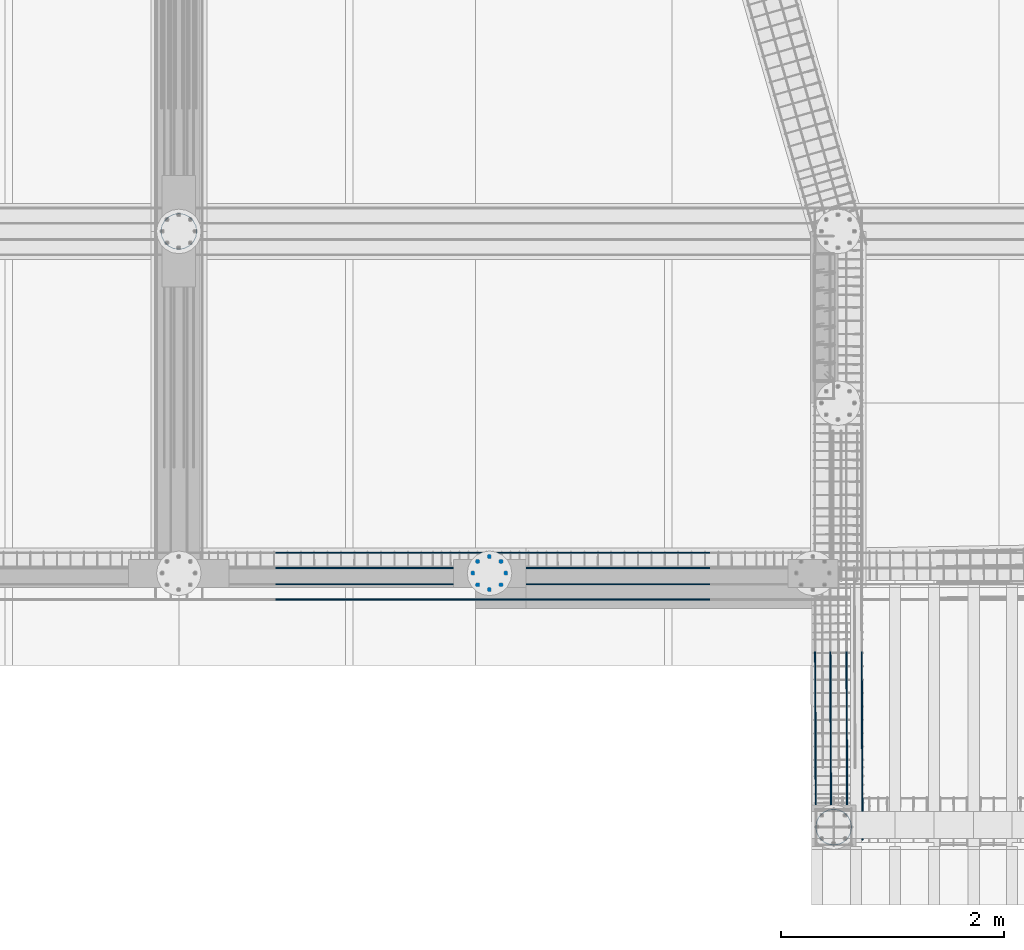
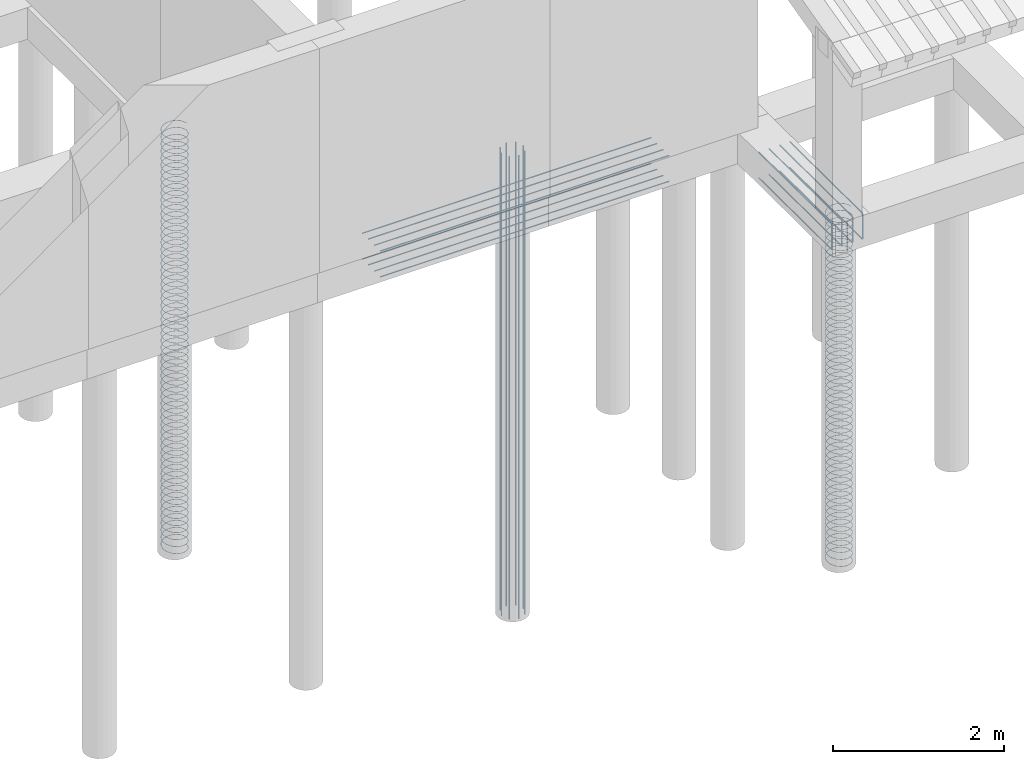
# One storey, part 5 of 13: 5 reinforcing bars.
"""IFC4 building model written with IfcOpenShell, lengths in metres."""

from ifc_helpers import new_model, entity, si_unit, origin_with_axes, place, context, project, spatial, source, transform, mapped, element, save


model = new_model("IFC4")

# Units and contexts
model_context = context("Model", 3, precision=1e-05, world=origin_with_axes())
ifc_project = project(units=[si_unit("LENGTHUNIT", "METRE"), si_unit("AREAUNIT", "SQUARE_METRE"), si_unit("VOLUMEUNIT", "CUBIC_METRE"), si_unit("MASSUNIT", "GRAM", prefix="KILO"), si_unit("TIMEUNIT", "SECOND"), si_unit("PLANEANGLEUNIT", "RADIAN"), si_unit("SOLIDANGLEUNIT", "STERADIAN"), si_unit("THERMODYNAMICTEMPERATUREUNIT", "DEGREE_CELSIUS")], contexts=[model_context])

# Site, building, storey
placement_1 = place(None, origin_with_axes())
site = spatial("IfcSite", under=ifc_project, at=placement_1, Name="Italia", CompositionType="ELEMENT")
building = spatial("IfcBuilding", under=site, at=placement_1, Name="Villa", CompositionType="ELEMENT")
storey = spatial("IfcBuildingStorey", under=building, at=placement_1, Name="Storey 0", CompositionType="ELEMENT", Elevation=0.0)

# Reinforcing bars
shared_shape_1 = source(origin_with_axes(), model_context, "Body", "AdvancedSweptSolid", [
    entity("IfcSweptDiskSolid", entity("IfcIndexedPolyCurve", entity("IfcCartesianPointList3D", [[15.12, 0.2, -4.97], [15.1122, 0.150557, -4.965], [15.0894, 0.105954, -4.96], [15.054, 0.0705573, -4.955], [15.0094, 0.047831, -4.95], [14.96, 0.04, -4.945], [14.9106, 0.047831, -4.94], [14.866, 0.0705573, -4.935], [14.8306, 0.105954, -4.93], [14.8078, 0.150557, -4.925], [14.8, 0.2, -4.92], [14.8078, 0.249443, -4.915], [14.8306, 0.294046, -4.91], [14.866, 0.329443, -4.905], [14.9106, 0.352169, -4.9], [14.96, 0.36, -4.895], [15.0094, 0.352169, -4.89], [15.054, 0.329443, -4.885], [15.0894, 0.294046, -4.88], [15.1122, 0.249443, -4.875], [15.12, 0.2, -4.87]]), [entity("IfcLineIndex", [1, 2]), entity("IfcLineIndex", [2, 3]), entity("IfcLineIndex", [3, 4]), entity("IfcLineIndex", [4, 5]), entity("IfcLineIndex", [5, 6]), entity("IfcLineIndex", [6, 7]), entity("IfcLineIndex", [7, 8]), entity("IfcLineIndex", [8, 9]), entity("IfcLineIndex", [9, 10]), entity("IfcLineIndex", [10, 11]), entity("IfcLineIndex", [11, 12]), entity("IfcLineIndex", [12, 13]), entity("IfcLineIndex", [13, 14]), entity("IfcLineIndex", [14, 15]), entity("IfcLineIndex", [15, 16]), entity("IfcLineIndex", [16, 17]), entity("IfcLineIndex", [17, 18]), entity("IfcLineIndex", [18, 19]), entity("IfcLineIndex", [19, 20]), entity("IfcLineIndex", [20, 21])], False), 0.004),
])
placement_2 = place(placement_1, origin_with_axes())
reinforcing_bar_1_placement = place(placement_2, origin_with_axes())
element("IfcReinforcingBar", 1, at=reinforcing_bar_1_placement, inside=storey, BarLength=1.00616, CrossSectionArea=5.0265e-05, NominalDiameter=0.008, context=model_context, shape_type="MappedRepresentation", body=[
    mapped(shared_shape_1, transform((0.0, 0.0, 2.6), x_axis=(1.0, 0.0, 0.0), y_axis=(0.0, 1.0, 0.0), z_axis=(0.0, 0.0, 1.0), scale=1.0)),
    mapped(shared_shape_1, transform((0.0, 0.0, 2.5), x_axis=(1.0, 0.0, 0.0), y_axis=(0.0, 1.0, 0.0), z_axis=(0.0, 0.0, 1.0), scale=1.0)),
    mapped(shared_shape_1, transform((0.0, 0.0, 2.7), x_axis=(1.0, 0.0, 0.0), y_axis=(0.0, 1.0, 0.0), z_axis=(0.0, 0.0, 1.0), scale=1.0)),
    mapped(shared_shape_1, transform((0.0, 0.0, 2.9), x_axis=(1.0, 0.0, 0.0), y_axis=(0.0, 1.0, 0.0), z_axis=(0.0, 0.0, 1.0), scale=1.0)),
    mapped(shared_shape_1, transform((0.0, 0.0, 2.8), x_axis=(1.0, 0.0, 0.0), y_axis=(0.0, 1.0, 0.0), z_axis=(0.0, 0.0, 1.0), scale=1.0)),
    mapped(shared_shape_1, transform((2.28882e-05, 0.0, 3.20006), x_axis=(1.0, 0.0, 0.0), y_axis=(0.0, 1.0, 0.0), z_axis=(0.0, 0.0, 1.0), scale=1.0)),
    mapped(shared_shape_1, transform((2.28882e-05, 0.0, 3.10006), x_axis=(1.0, 0.0, 0.0), y_axis=(0.0, 1.0, 0.0), z_axis=(0.0, 0.0, 1.0), scale=1.0)),
    mapped(shared_shape_1, transform((2.28882e-05, 0.0, 3.00006), x_axis=(1.0, 0.0, 0.0), y_axis=(0.0, 1.0, 0.0), z_axis=(0.0, 0.0, 1.0), scale=1.0)),
    mapped(shared_shape_1, transform((2.28882e-05, 0.0, 3.50006), x_axis=(1.0, 0.0, 0.0), y_axis=(0.0, 1.0, 0.0), z_axis=(0.0, 0.0, 1.0), scale=1.0)),
    mapped(shared_shape_1, transform((2.28882e-05, 0.0, 3.40006), x_axis=(1.0, 0.0, 0.0), y_axis=(0.0, 1.0, 0.0), z_axis=(0.0, 0.0, 1.0), scale=1.0)),
    mapped(shared_shape_1, transform((2.28882e-05, 0.0, 3.30006), x_axis=(1.0, 0.0, 0.0), y_axis=(0.0, 1.0, 0.0), z_axis=(0.0, 0.0, 1.0), scale=1.0)),
    mapped(shared_shape_1, transform((2.28882e-05, 0.0, 3.80006), x_axis=(1.0, 0.0, 0.0), y_axis=(0.0, 1.0, 0.0), z_axis=(0.0, 0.0, 1.0), scale=1.0)),
    mapped(shared_shape_1, transform((2.28882e-05, 0.0, 3.70006), x_axis=(1.0, 0.0, 0.0), y_axis=(0.0, 1.0, 0.0), z_axis=(0.0, 0.0, 1.0), scale=1.0)),
    mapped(shared_shape_1, transform((2.28882e-05, 0.0, 3.60006), x_axis=(1.0, 0.0, 0.0), y_axis=(0.0, 1.0, 0.0), z_axis=(0.0, 0.0, 1.0), scale=1.0)),
    mapped(shared_shape_1, transform((2.28882e-05, 0.0, 4.10006), x_axis=(1.0, 0.0, 0.0), y_axis=(0.0, 1.0, 0.0), z_axis=(0.0, 0.0, 1.0), scale=1.0)),
    mapped(shared_shape_1, transform((2.28882e-05, 0.0, 4.00006), x_axis=(1.0, 0.0, 0.0), y_axis=(0.0, 1.0, 0.0), z_axis=(0.0, 0.0, 1.0), scale=1.0)),
    mapped(shared_shape_1, transform((2.28882e-05, 0.0, 3.90006), x_axis=(1.0, 0.0, 0.0), y_axis=(0.0, 1.0, 0.0), z_axis=(0.0, 0.0, 1.0), scale=1.0)),
    mapped(shared_shape_1, transform((2.28882e-05, 0.0, 4.40006), x_axis=(1.0, 0.0, 0.0), y_axis=(0.0, 1.0, 0.0), z_axis=(0.0, 0.0, 1.0), scale=1.0)),
    mapped(shared_shape_1, transform((2.28882e-05, 0.0, 4.30006), x_axis=(1.0, 0.0, 0.0), y_axis=(0.0, 1.0, 0.0), z_axis=(0.0, 0.0, 1.0), scale=1.0)),
    mapped(shared_shape_1, transform((2.28882e-05, 0.0, 4.20006), x_axis=(1.0, 0.0, 0.0), y_axis=(0.0, 1.0, 0.0), z_axis=(0.0, 0.0, 1.0), scale=1.0)),
    mapped(shared_shape_1, transform((2.38419e-05, 0.0, 4.50007), x_axis=(1.0, 0.0, 0.0), y_axis=(0.0, 1.0, 0.0), z_axis=(0.0, 0.0, 1.0), scale=1.0)),
    mapped(shared_shape_1, transform((2.38419e-05, 0.0, 4.70007), x_axis=(1.0, 0.0, 0.0), y_axis=(0.0, 1.0, 0.0), z_axis=(0.0, 0.0, 1.0), scale=1.0)),
    mapped(shared_shape_1, transform((2.38419e-05, 0.0, 4.60007), x_axis=(1.0, 0.0, 0.0), y_axis=(0.0, 1.0, 0.0), z_axis=(0.0, 0.0, 1.0), scale=1.0)),
    mapped(shared_shape_1, transform((2.38419e-05, 0.0, 4.80006), x_axis=(1.0, 0.0, 0.0), y_axis=(0.0, 1.0, 0.0), z_axis=(0.0, 0.0, 1.0), scale=1.0)),
    mapped(shared_shape_1, transform((0.0, 0.0, 0.0), x_axis=(1.0, 0.0, 0.0), y_axis=(0.0, 1.0, 0.0), z_axis=(0.0, 0.0, 1.0), scale=1.0)),
    mapped(shared_shape_1, transform((2.28882e-05, 0.0, 4.90006), x_axis=(1.0, 0.0, 0.0), y_axis=(0.0, 1.0, 0.0), z_axis=(0.0, 0.0, 1.0), scale=1.0)),
    mapped(shared_shape_1, transform((0.0, 0.0, 0.699998), x_axis=(1.0, 0.0, 0.0), y_axis=(0.0, 1.0, 0.0), z_axis=(0.0, 0.0, 1.0), scale=1.0)),
    mapped(shared_shape_1, transform((0.0, 0.0, 0.899998), x_axis=(1.0, 0.0, 0.0), y_axis=(0.0, 1.0, 0.0), z_axis=(0.0, 0.0, 1.0), scale=1.0)),
    mapped(shared_shape_1, transform((0.0, 0.0, 0.799998), x_axis=(1.0, 0.0, 0.0), y_axis=(0.0, 1.0, 0.0), z_axis=(0.0, 0.0, 1.0), scale=1.0)),
    mapped(shared_shape_1, transform((0.0, 0.0, 0.999998), x_axis=(1.0, 0.0, 0.0), y_axis=(0.0, 1.0, 0.0), z_axis=(0.0, 0.0, 1.0), scale=1.0)),
    mapped(shared_shape_1, transform((0.0, 0.0, 0.599998), x_axis=(1.0, 0.0, 0.0), y_axis=(0.0, 1.0, 0.0), z_axis=(0.0, 0.0, 1.0), scale=1.0)),
    mapped(shared_shape_1, transform((0.0, 0.0, 0.499999), x_axis=(1.0, 0.0, 0.0), y_axis=(0.0, 1.0, 0.0), z_axis=(0.0, 0.0, 1.0), scale=1.0)),
    mapped(shared_shape_1, transform((0.0, 0.0, 0.099999), x_axis=(1.0, 0.0, 0.0), y_axis=(0.0, 1.0, 0.0), z_axis=(0.0, 0.0, 1.0), scale=1.0)),
    mapped(shared_shape_1, transform((0.0, 0.0, 0.299999), x_axis=(1.0, 0.0, 0.0), y_axis=(0.0, 1.0, 0.0), z_axis=(0.0, 0.0, 1.0), scale=1.0)),
    mapped(shared_shape_1, transform((0.0, 0.0, 0.199999), x_axis=(1.0, 0.0, 0.0), y_axis=(0.0, 1.0, 0.0), z_axis=(0.0, 0.0, 1.0), scale=1.0)),
    mapped(shared_shape_1, transform((0.0, 0.0, 0.399999), x_axis=(1.0, 0.0, 0.0), y_axis=(0.0, 1.0, 0.0), z_axis=(0.0, 0.0, 1.0), scale=1.0)),
    mapped(shared_shape_1, transform((0.0, 0.0, 1.2), x_axis=(1.0, 0.0, 0.0), y_axis=(0.0, 1.0, 0.0), z_axis=(0.0, 0.0, 1.0), scale=1.0)),
    mapped(shared_shape_1, transform((0.0, 0.0, 1.1), x_axis=(1.0, 0.0, 0.0), y_axis=(0.0, 1.0, 0.0), z_axis=(0.0, 0.0, 1.0), scale=1.0)),
    mapped(shared_shape_1, transform((0.0, 0.0, 1.9), x_axis=(1.0, 0.0, 0.0), y_axis=(0.0, 1.0, 0.0), z_axis=(0.0, 0.0, 1.0), scale=1.0)),
    mapped(shared_shape_1, transform((0.0, 0.0, 2.1), x_axis=(1.0, 0.0, 0.0), y_axis=(0.0, 1.0, 0.0), z_axis=(0.0, 0.0, 1.0), scale=1.0)),
    mapped(shared_shape_1, transform((0.0, 0.0, 2.0), x_axis=(1.0, 0.0, 0.0), y_axis=(0.0, 1.0, 0.0), z_axis=(0.0, 0.0, 1.0), scale=1.0)),
    mapped(shared_shape_1, transform((0.0, 0.0, 2.2), x_axis=(1.0, 0.0, 0.0), y_axis=(0.0, 1.0, 0.0), z_axis=(0.0, 0.0, 1.0), scale=1.0)),
    mapped(shared_shape_1, transform((0.0, 0.0, 1.8), x_axis=(1.0, 0.0, 0.0), y_axis=(0.0, 1.0, 0.0), z_axis=(0.0, 0.0, 1.0), scale=1.0)),
    mapped(shared_shape_1, transform((0.0, 0.0, 1.7), x_axis=(1.0, 0.0, 0.0), y_axis=(0.0, 1.0, 0.0), z_axis=(0.0, 0.0, 1.0), scale=1.0)),
    mapped(shared_shape_1, transform((0.0, 0.0, 1.3), x_axis=(1.0, 0.0, 0.0), y_axis=(0.0, 1.0, 0.0), z_axis=(0.0, 0.0, 1.0), scale=1.0)),
    mapped(shared_shape_1, transform((0.0, 0.0, 1.5), x_axis=(1.0, 0.0, 0.0), y_axis=(0.0, 1.0, 0.0), z_axis=(0.0, 0.0, 1.0), scale=1.0)),
    mapped(shared_shape_1, transform((0.0, 0.0, 1.4), x_axis=(1.0, 0.0, 0.0), y_axis=(0.0, 1.0, 0.0), z_axis=(0.0, 0.0, 1.0), scale=1.0)),
    mapped(shared_shape_1, transform((0.0, 0.0, 1.6), x_axis=(1.0, 0.0, 0.0), y_axis=(0.0, 1.0, 0.0), z_axis=(0.0, 0.0, 1.0), scale=1.0)),
    mapped(shared_shape_1, transform((0.0, 0.0, 2.4), x_axis=(1.0, 0.0, 0.0), y_axis=(0.0, 1.0, 0.0), z_axis=(0.0, 0.0, 1.0), scale=1.0)),
    mapped(shared_shape_1, transform((0.0, 0.0, 2.3), x_axis=(1.0, 0.0, 0.0), y_axis=(0.0, 1.0, 0.0), z_axis=(0.0, 0.0, 1.0), scale=1.0)),
])
shared_shape_2 = source(origin_with_axes(), model_context, "Body", "AdvancedSweptSolid", [
    entity("IfcSweptDiskSolid", entity("IfcIndexedPolyCurve", entity("IfcCartesianPointList3D", [[11.9797, 2.37035, -6.0], [11.9797, 2.37035, 0.6]]), [entity("IfcLineIndex", [1, 2])], False), 0.008),
])
reinforcing_bar_2_placement = place(placement_2, origin_with_axes())
element("IfcReinforcingBar", 2, at=reinforcing_bar_2_placement, inside=storey, BarLength=6.6, CrossSectionArea=0.00020106, NominalDiameter=0.016, context=model_context, shape_type="MappedRepresentation", body=[
    mapped(shared_shape_2, transform((-0.252651, 0.104652, 0.0), x_axis=(1.0, 0.0, 0.0), y_axis=(0.0, 1.0, 0.0), z_axis=(0.0, 0.0, 1.0), scale=1.0)),
    mapped(shared_shape_2, transform((-0.209303, 0.209304, 0.0), x_axis=(1.0, 0.0, 0.0), y_axis=(0.0, 1.0, 0.0), z_axis=(0.0, 0.0, 1.0), scale=1.0)),
    mapped(shared_shape_2, transform((-0.104651, -0.0433481, 0.0), x_axis=(1.0, 0.0, 0.0), y_axis=(0.0, 1.0, 0.0), z_axis=(0.0, 0.0, 1.0), scale=1.0)),
    mapped(shared_shape_2, transform((-0.209303, 0.0, 0.0), x_axis=(1.0, 0.0, 0.0), y_axis=(0.0, 1.0, 0.0), z_axis=(0.0, 0.0, 1.0), scale=1.0)),
    mapped(shared_shape_2, transform((0.0433483, 0.104652, 0.0), x_axis=(1.0, 0.0, 0.0), y_axis=(0.0, 1.0, 0.0), z_axis=(0.0, 0.0, 1.0), scale=1.0)),
    mapped(shared_shape_2, transform((0.0, 0.0, 0.0), x_axis=(1.0, 0.0, 0.0), y_axis=(0.0, 1.0, 0.0), z_axis=(0.0, 0.0, 1.0), scale=1.0)),
    mapped(shared_shape_2, transform((-0.104651, 0.252652, 0.0), x_axis=(1.0, 0.0, 0.0), y_axis=(0.0, 1.0, 0.0), z_axis=(0.0, 0.0, 1.0), scale=1.0)),
    mapped(shared_shape_2, transform((0.0, 0.209304, 0.0), x_axis=(1.0, 0.0, 0.0), y_axis=(0.0, 1.0, 0.0), z_axis=(0.0, 0.0, 1.0), scale=1.0)),
])
shared_shape_3 = source(origin_with_axes(), model_context, "Body", "AdvancedSweptSolid", [
    entity("IfcSweptDiskSolid", entity("IfcIndexedPolyCurve", entity("IfcCartesianPointList3D", [[9.25, 5.54, -5.97], [9.24217, 5.49056, -5.965], [9.21944, 5.44595, -5.96], [9.18405, 5.41056, -5.955], [9.13944, 5.38783, -5.95], [9.09, 5.38, -5.945], [9.04056, 5.38783, -5.94], [8.99595, 5.41056, -5.935], [8.96056, 5.44595, -5.93], [8.93783, 5.49056, -5.925], [8.93, 5.54, -5.92], [8.93783, 5.58944, -5.915], [8.96056, 5.63405, -5.91], [8.99595, 5.66944, -5.905], [9.04056, 5.69217, -5.9], [9.09, 5.7, -5.895], [9.13944, 5.69217, -5.89], [9.18405, 5.66944, -5.885], [9.21944, 5.63405, -5.88], [9.24217, 5.58944, -5.875], [9.25, 5.54, -5.87]]), [entity("IfcLineIndex", [1, 2]), entity("IfcLineIndex", [2, 3]), entity("IfcLineIndex", [3, 4]), entity("IfcLineIndex", [4, 5]), entity("IfcLineIndex", [5, 6]), entity("IfcLineIndex", [6, 7]), entity("IfcLineIndex", [7, 8]), entity("IfcLineIndex", [8, 9]), entity("IfcLineIndex", [9, 10]), entity("IfcLineIndex", [10, 11]), entity("IfcLineIndex", [11, 12]), entity("IfcLineIndex", [12, 13]), entity("IfcLineIndex", [13, 14]), entity("IfcLineIndex", [14, 15]), entity("IfcLineIndex", [15, 16]), entity("IfcLineIndex", [16, 17]), entity("IfcLineIndex", [17, 18]), entity("IfcLineIndex", [18, 19]), entity("IfcLineIndex", [19, 20]), entity("IfcLineIndex", [20, 21])], False), 0.004),
])
reinforcing_bar_3_placement = place(placement_2, origin_with_axes())
element("IfcReinforcingBar", 3, at=reinforcing_bar_3_placement, inside=storey, BarLength=1.00616, CrossSectionArea=5.0265e-05, NominalDiameter=0.008, context=model_context, shape_type="MappedRepresentation", body=[
    mapped(shared_shape_3, transform((2.28882e-05, -1.33514e-05, 4.30002), x_axis=(1.0, 0.0, 0.0), y_axis=(0.0, 1.0, 0.0), z_axis=(0.0, 0.0, 1.0), scale=1.0)),
    mapped(shared_shape_3, transform((2.28882e-05, -1.33514e-05, 4.20002), x_axis=(1.0, 0.0, 0.0), y_axis=(0.0, 1.0, 0.0), z_axis=(0.0, 0.0, 1.0), scale=1.0)),
    mapped(shared_shape_3, transform((2.28882e-05, -1.33514e-05, 4.10002), x_axis=(1.0, 0.0, 0.0), y_axis=(0.0, 1.0, 0.0), z_axis=(0.0, 0.0, 1.0), scale=1.0)),
    mapped(shared_shape_3, transform((0.0, 0.0, 3.9), x_axis=(1.0, 0.0, 0.0), y_axis=(0.0, 1.0, 0.0), z_axis=(0.0, 0.0, 1.0), scale=1.0)),
    mapped(shared_shape_3, transform((0.0, 0.0, 3.8), x_axis=(1.0, 0.0, 0.0), y_axis=(0.0, 1.0, 0.0), z_axis=(0.0, 0.0, 1.0), scale=1.0)),
    mapped(shared_shape_3, transform((2.28882e-05, -1.33514e-05, 4.40002), x_axis=(1.0, 0.0, 0.0), y_axis=(0.0, 1.0, 0.0), z_axis=(0.0, 0.0, 1.0), scale=1.0)),
    mapped(shared_shape_3, transform((0.0, 0.0, 3.5), x_axis=(1.0, 0.0, 0.0), y_axis=(0.0, 1.0, 0.0), z_axis=(0.0, 0.0, 1.0), scale=1.0)),
    mapped(shared_shape_3, transform((0.0, 0.0, 3.4), x_axis=(1.0, 0.0, 0.0), y_axis=(0.0, 1.0, 0.0), z_axis=(0.0, 0.0, 1.0), scale=1.0)),
    mapped(shared_shape_3, transform((2.28882e-05, -1.33514e-05, 4.00002), x_axis=(1.0, 0.0, 0.0), y_axis=(0.0, 1.0, 0.0), z_axis=(0.0, 0.0, 1.0), scale=1.0)),
    mapped(shared_shape_3, transform((0.0, 0.0, 3.1), x_axis=(1.0, 0.0, 0.0), y_axis=(0.0, 1.0, 0.0), z_axis=(0.0, 0.0, 1.0), scale=1.0)),
    mapped(shared_shape_3, transform((0.0, 0.0, 3.7), x_axis=(1.0, 0.0, 0.0), y_axis=(0.0, 1.0, 0.0), z_axis=(0.0, 0.0, 1.0), scale=1.0)),
    mapped(shared_shape_3, transform((0.0, 0.0, 3.6), x_axis=(1.0, 0.0, 0.0), y_axis=(0.0, 1.0, 0.0), z_axis=(0.0, 0.0, 1.0), scale=1.0)),
    mapped(shared_shape_3, transform((2.47955e-05, -1.33514e-05, 5.70002), x_axis=(1.0, 0.0, 0.0), y_axis=(0.0, 1.0, 0.0), z_axis=(0.0, 0.0, 1.0), scale=1.0)),
    mapped(shared_shape_3, transform((0.0, 0.0, 3.3), x_axis=(1.0, 0.0, 0.0), y_axis=(0.0, 1.0, 0.0), z_axis=(0.0, 0.0, 1.0), scale=1.0)),
    mapped(shared_shape_3, transform((0.0, 0.0, 3.2), x_axis=(1.0, 0.0, 0.0), y_axis=(0.0, 1.0, 0.0), z_axis=(0.0, 0.0, 1.0), scale=1.0)),
    mapped(shared_shape_3, transform((0.0, 0.0, 3.0), x_axis=(1.0, 0.0, 0.0), y_axis=(0.0, 1.0, 0.0), z_axis=(0.0, 0.0, 1.0), scale=1.0)),
    mapped(shared_shape_3, transform((2.28882e-05, -1.28746e-05, 5.90002), x_axis=(1.0, 0.0, 0.0), y_axis=(0.0, 1.0, 0.0), z_axis=(0.0, 0.0, 1.0), scale=1.0)),
    mapped(shared_shape_3, transform((2.38419e-05, -1.33514e-05, 5.80002), x_axis=(1.0, 0.0, 0.0), y_axis=(0.0, 1.0, 0.0), z_axis=(0.0, 0.0, 1.0), scale=1.0)),
    mapped(shared_shape_3, transform((2.47955e-05, -1.33514e-05, 5.60002), x_axis=(1.0, 0.0, 0.0), y_axis=(0.0, 1.0, 0.0), z_axis=(0.0, 0.0, 1.0), scale=1.0)),
    mapped(shared_shape_3, transform((2.47955e-05, -1.33514e-05, 5.50002), x_axis=(1.0, 0.0, 0.0), y_axis=(0.0, 1.0, 0.0), z_axis=(0.0, 0.0, 1.0), scale=1.0)),
    mapped(shared_shape_3, transform((2.28882e-05, -1.33514e-05, 5.40002), x_axis=(1.0, 0.0, 0.0), y_axis=(0.0, 1.0, 0.0), z_axis=(0.0, 0.0, 1.0), scale=1.0)),
    mapped(shared_shape_3, transform((2.28882e-05, -1.33514e-05, 5.20002), x_axis=(1.0, 0.0, 0.0), y_axis=(0.0, 1.0, 0.0), z_axis=(0.0, 0.0, 1.0), scale=1.0)),
    mapped(shared_shape_3, transform((2.28882e-05, -1.33514e-05, 5.10002), x_axis=(1.0, 0.0, 0.0), y_axis=(0.0, 1.0, 0.0), z_axis=(0.0, 0.0, 1.0), scale=1.0)),
    mapped(shared_shape_3, transform((2.28882e-05, -1.33514e-05, 5.00002), x_axis=(1.0, 0.0, 0.0), y_axis=(0.0, 1.0, 0.0), z_axis=(0.0, 0.0, 1.0), scale=1.0)),
    mapped(shared_shape_3, transform((2.28882e-05, -1.33514e-05, 4.80002), x_axis=(1.0, 0.0, 0.0), y_axis=(0.0, 1.0, 0.0), z_axis=(0.0, 0.0, 1.0), scale=1.0)),
    mapped(shared_shape_3, transform((2.28882e-05, -1.33514e-05, 4.70002), x_axis=(1.0, 0.0, 0.0), y_axis=(0.0, 1.0, 0.0), z_axis=(0.0, 0.0, 1.0), scale=1.0)),
    mapped(shared_shape_3, transform((2.28882e-05, -1.33514e-05, 5.30002), x_axis=(1.0, 0.0, 0.0), y_axis=(0.0, 1.0, 0.0), z_axis=(0.0, 0.0, 1.0), scale=1.0)),
    mapped(shared_shape_3, transform((0.0, 0.0, 1.4), x_axis=(1.0, 0.0, 0.0), y_axis=(0.0, 1.0, 0.0), z_axis=(0.0, 0.0, 1.0), scale=1.0)),
    mapped(shared_shape_3, transform((0.0, 0.0, 1.3), x_axis=(1.0, 0.0, 0.0), y_axis=(0.0, 1.0, 0.0), z_axis=(0.0, 0.0, 1.0), scale=1.0)),
    mapped(shared_shape_3, transform((2.28882e-05, -1.33514e-05, 4.90002), x_axis=(1.0, 0.0, 0.0), y_axis=(0.0, 1.0, 0.0), z_axis=(0.0, 0.0, 1.0), scale=1.0)),
    mapped(shared_shape_3, transform((0.0, 0.0, 0.999999), x_axis=(1.0, 0.0, 0.0), y_axis=(0.0, 1.0, 0.0), z_axis=(0.0, 0.0, 1.0), scale=1.0)),
    mapped(shared_shape_3, transform((2.28882e-05, -1.33514e-05, 4.60002), x_axis=(1.0, 0.0, 0.0), y_axis=(0.0, 1.0, 0.0), z_axis=(0.0, 0.0, 1.0), scale=1.0)),
    mapped(shared_shape_3, transform((2.28882e-05, -1.33514e-05, 4.50002), x_axis=(1.0, 0.0, 0.0), y_axis=(0.0, 1.0, 0.0), z_axis=(0.0, 0.0, 1.0), scale=1.0)),
    mapped(shared_shape_3, transform((0.0, 0.0, 0.599999), x_axis=(1.0, 0.0, 0.0), y_axis=(0.0, 1.0, 0.0), z_axis=(0.0, 0.0, 1.0), scale=1.0)),
    mapped(shared_shape_3, transform((0.0, 0.0, 1.2), x_axis=(1.0, 0.0, 0.0), y_axis=(0.0, 1.0, 0.0), z_axis=(0.0, 0.0, 1.0), scale=1.0)),
    mapped(shared_shape_3, transform((0.0, 0.0, 1.1), x_axis=(1.0, 0.0, 0.0), y_axis=(0.0, 1.0, 0.0), z_axis=(0.0, 0.0, 1.0), scale=1.0)),
    mapped(shared_shape_3, transform((0.0, 0.0, 0.899999), x_axis=(1.0, 0.0, 0.0), y_axis=(0.0, 1.0, 0.0), z_axis=(0.0, 0.0, 1.0), scale=1.0)),
    mapped(shared_shape_3, transform((0.0, 0.0, 0.799999), x_axis=(1.0, 0.0, 0.0), y_axis=(0.0, 1.0, 0.0), z_axis=(0.0, 0.0, 1.0), scale=1.0)),
    mapped(shared_shape_3, transform((0.0, 0.0, 0.699999), x_axis=(1.0, 0.0, 0.0), y_axis=(0.0, 1.0, 0.0), z_axis=(0.0, 0.0, 1.0), scale=1.0)),
    mapped(shared_shape_3, transform((0.0, 0.0, 0.5), x_axis=(1.0, 0.0, 0.0), y_axis=(0.0, 1.0, 0.0), z_axis=(0.0, 0.0, 1.0), scale=1.0)),
    mapped(shared_shape_3, transform((0.0, 0.0, 0.4), x_axis=(1.0, 0.0, 0.0), y_axis=(0.0, 1.0, 0.0), z_axis=(0.0, 0.0, 1.0), scale=1.0)),
    mapped(shared_shape_3, transform((0.0, 0.0, 0.3), x_axis=(1.0, 0.0, 0.0), y_axis=(0.0, 1.0, 0.0), z_axis=(0.0, 0.0, 1.0), scale=1.0)),
    mapped(shared_shape_3, transform((0.0, 0.0, 0.0999999), x_axis=(1.0, 0.0, 0.0), y_axis=(0.0, 1.0, 0.0), z_axis=(0.0, 0.0, 1.0), scale=1.0)),
    mapped(shared_shape_3, transform((0.0, 0.0, 0.0), x_axis=(1.0, 0.0, 0.0), y_axis=(0.0, 1.0, 0.0), z_axis=(0.0, 0.0, 1.0), scale=1.0)),
    mapped(shared_shape_3, transform((0.0, 0.0, 2.9), x_axis=(1.0, 0.0, 0.0), y_axis=(0.0, 1.0, 0.0), z_axis=(0.0, 0.0, 1.0), scale=1.0)),
    mapped(shared_shape_3, transform((0.0, 0.0, 2.7), x_axis=(1.0, 0.0, 0.0), y_axis=(0.0, 1.0, 0.0), z_axis=(0.0, 0.0, 1.0), scale=1.0)),
    mapped(shared_shape_3, transform((0.0, 0.0, 2.6), x_axis=(1.0, 0.0, 0.0), y_axis=(0.0, 1.0, 0.0), z_axis=(0.0, 0.0, 1.0), scale=1.0)),
    mapped(shared_shape_3, transform((0.0, 0.0, 0.2), x_axis=(1.0, 0.0, 0.0), y_axis=(0.0, 1.0, 0.0), z_axis=(0.0, 0.0, 1.0), scale=1.0)),
    mapped(shared_shape_3, transform((0.0, 0.0, 2.3), x_axis=(1.0, 0.0, 0.0), y_axis=(0.0, 1.0, 0.0), z_axis=(0.0, 0.0, 1.0), scale=1.0)),
    mapped(shared_shape_3, transform((0.0, 0.0, 2.2), x_axis=(1.0, 0.0, 0.0), y_axis=(0.0, 1.0, 0.0), z_axis=(0.0, 0.0, 1.0), scale=1.0)),
    mapped(shared_shape_3, transform((0.0, 0.0, 2.8), x_axis=(1.0, 0.0, 0.0), y_axis=(0.0, 1.0, 0.0), z_axis=(0.0, 0.0, 1.0), scale=1.0)),
    mapped(shared_shape_3, transform((0.0, 0.0, 1.9), x_axis=(1.0, 0.0, 0.0), y_axis=(0.0, 1.0, 0.0), z_axis=(0.0, 0.0, 1.0), scale=1.0)),
    mapped(shared_shape_3, transform((0.0, 0.0, 2.5), x_axis=(1.0, 0.0, 0.0), y_axis=(0.0, 1.0, 0.0), z_axis=(0.0, 0.0, 1.0), scale=1.0)),
    mapped(shared_shape_3, transform((0.0, 0.0, 2.4), x_axis=(1.0, 0.0, 0.0), y_axis=(0.0, 1.0, 0.0), z_axis=(0.0, 0.0, 1.0), scale=1.0)),
    mapped(shared_shape_3, transform((0.0, 0.0, 1.5), x_axis=(1.0, 0.0, 0.0), y_axis=(0.0, 1.0, 0.0), z_axis=(0.0, 0.0, 1.0), scale=1.0)),
    mapped(shared_shape_3, transform((0.0, 0.0, 2.1), x_axis=(1.0, 0.0, 0.0), y_axis=(0.0, 1.0, 0.0), z_axis=(0.0, 0.0, 1.0), scale=1.0)),
    mapped(shared_shape_3, transform((0.0, 0.0, 2.0), x_axis=(1.0, 0.0, 0.0), y_axis=(0.0, 1.0, 0.0), z_axis=(0.0, 0.0, 1.0), scale=1.0)),
    mapped(shared_shape_3, transform((0.0, 0.0, 1.8), x_axis=(1.0, 0.0, 0.0), y_axis=(0.0, 1.0, 0.0), z_axis=(0.0, 0.0, 1.0), scale=1.0)),
    mapped(shared_shape_3, transform((0.0, 0.0, 1.7), x_axis=(1.0, 0.0, 0.0), y_axis=(0.0, 1.0, 0.0), z_axis=(0.0, 0.0, 1.0), scale=1.0)),
    mapped(shared_shape_3, transform((0.0, 0.0, 1.6), x_axis=(1.0, 0.0, 0.0), y_axis=(0.0, 1.0, 0.0), z_axis=(0.0, 0.0, 1.0), scale=1.0)),
])
shared_shape_4 = source(origin_with_axes(), model_context, "Body", "AdvancedSweptSolid", [
    entity("IfcSweptDiskSolid", entity("IfcIndexedPolyCurve", entity("IfcCartesianPointList3D", [[9.95668, 2.241, -0.409], [10.4825, 2.241, -0.409], [13.3252, 2.241, -0.409], [13.8511, 2.241, -0.409]]), [entity("IfcLineIndex", [1, 2]), entity("IfcLineIndex", [2, 3]), entity("IfcLineIndex", [3, 4])], False), 0.008),
])
reinforcing_bar_4_placement = place(placement_2, origin_with_axes())
element("IfcReinforcingBar", 4, at=reinforcing_bar_4_placement, inside=storey, BarLength=3.89437, CrossSectionArea=0.00020106, NominalDiameter=0.016, context=model_context, shape_type="MappedRepresentation", body=[
    mapped(shared_shape_4, transform((0.0, 0.418, 0.368), x_axis=(1.0, 0.0, 0.0), y_axis=(0.0, 1.0, 0.0), z_axis=(0.0, 0.0, 1.0), scale=1.0)),
    mapped(shared_shape_4, transform((0.0, 0.0, 0.368), x_axis=(1.0, 0.0, 0.0), y_axis=(0.0, 1.0, 0.0), z_axis=(0.0, 0.0, 1.0), scale=1.0)),
    mapped(shared_shape_4, transform((0.0, 0.281334, 0.368), x_axis=(1.0, 0.0, 0.0), y_axis=(0.0, 1.0, 0.0), z_axis=(0.0, 0.0, 1.0), scale=1.0)),
    mapped(shared_shape_4, transform((0.0, 0.136667, 0.368), x_axis=(1.0, 0.0, 0.0), y_axis=(0.0, 1.0, 0.0), z_axis=(0.0, 0.0, 1.0), scale=1.0)),
    mapped(shared_shape_4, transform((0.0, 0.418, 0.0), x_axis=(1.0, 0.0, 0.0), y_axis=(0.0, 1.0, 0.0), z_axis=(0.0, 0.0, 1.0), scale=1.0)),
    mapped(shared_shape_4, transform((0.0, 0.0, 0.0), x_axis=(1.0, 0.0, 0.0), y_axis=(0.0, 1.0, 0.0), z_axis=(0.0, 0.0, 1.0), scale=1.0)),
    mapped(shared_shape_4, transform((0.0, 0.281334, 0.0), x_axis=(1.0, 0.0, 0.0), y_axis=(0.0, 1.0, 0.0), z_axis=(0.0, 0.0, 1.0), scale=1.0)),
    mapped(shared_shape_4, transform((0.0, 0.136667, 0.0), x_axis=(1.0, 0.0, 0.0), y_axis=(0.0, 1.0, 0.0), z_axis=(0.0, 0.0, 1.0), scale=1.0)),
])
shared_shape_5 = source(origin_with_axes(), model_context, "Body", "AdvancedSweptSolid", [
    entity("IfcSweptDiskSolid", entity("IfcIndexedPolyCurve", entity("IfcCartesianPointList3D", [[15.2186, 0.0880387, -0.159], [15.2186, 0.0880387, -0.399], [15.2186, 0.0887999, -0.402827], [15.2186, 0.0909676, -0.406071], [15.2186, 0.0942118, -0.408239], [15.2186, 0.0980386, -0.409], [15.218, 0.228941, -0.409], [15.2137, 1.25067, -0.409], [15.2114, 1.77648, -0.409]]), [entity("IfcLineIndex", [1, 2]), entity("IfcLineIndex", [2, 3]), entity("IfcLineIndex", [3, 4]), entity("IfcLineIndex", [4, 5]), entity("IfcLineIndex", [5, 6]), entity("IfcLineIndex", [6, 7]), entity("IfcLineIndex", [7, 8]), entity("IfcLineIndex", [8, 9])], False), 0.008),
])
reinforcing_bar_5_placement = place(placement_2, origin_with_axes())
element("IfcReinforcingBar", 5, at=reinforcing_bar_5_placement, inside=storey, BarLength=1.93407, CrossSectionArea=0.00020106, NominalDiameter=0.016, context=model_context, shape_type="MappedRepresentation", body=[
    mapped(shared_shape_5, transform((30.0195, 0.127761, -0.45), x_axis=(-0.999964, -0.00851176, 0.0), y_axis=(-0.00851176, 0.999964, 0.0), z_axis=(0.0, 0.0, -1.0), scale=1.0)),
    mapped(shared_shape_5, transform((30.4375, 0.12954, -0.45), x_axis=(-0.999964, -0.00851176, 0.0), y_axis=(-0.00851176, 0.999964, 0.0), z_axis=(0.0, 0.0, -1.0), scale=1.0)),
    mapped(shared_shape_5, transform((30.1561, 0.128352, -0.45), x_axis=(-0.999964, -0.00851232, 0.0), y_axis=(-0.00851232, 0.999964, 0.0), z_axis=(0.0, 0.0, -1.0), scale=1.0)),
    mapped(shared_shape_5, transform((30.3008, 0.128959, -0.45), x_axis=(-0.999964, -0.00851176, 0.0), y_axis=(-0.00851176, 0.999964, 0.0), z_axis=(0.0, 0.0, -1.0), scale=1.0)),
    mapped(shared_shape_5, transform((-0.417995, -0.00177909, 0.0), x_axis=(1.0, 0.0, 0.0), y_axis=(0.0, 1.0, 0.0), z_axis=(0.0, 0.0, 1.0), scale=1.0)),
    mapped(shared_shape_5, transform((0.0, 0.0, 0.0), x_axis=(1.0, 0.0, 0.0), y_axis=(0.0, 1.0, 0.0), z_axis=(0.0, 0.0, 1.0), scale=1.0)),
    mapped(shared_shape_5, transform((-0.281329, -0.001206, 0.0), x_axis=(1.0, 0.0, 0.0), y_axis=(0.0, 1.0, 0.0), z_axis=(0.0, 0.0, 1.0), scale=1.0)),
    mapped(shared_shape_5, transform((-0.136664, -0.000581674, 0.0), x_axis=(1.0, 0.0, 0.0), y_axis=(0.0, 1.0, 0.0), z_axis=(0.0, 0.0, 1.0), scale=1.0)),
])

save(model, "model.ifc")
